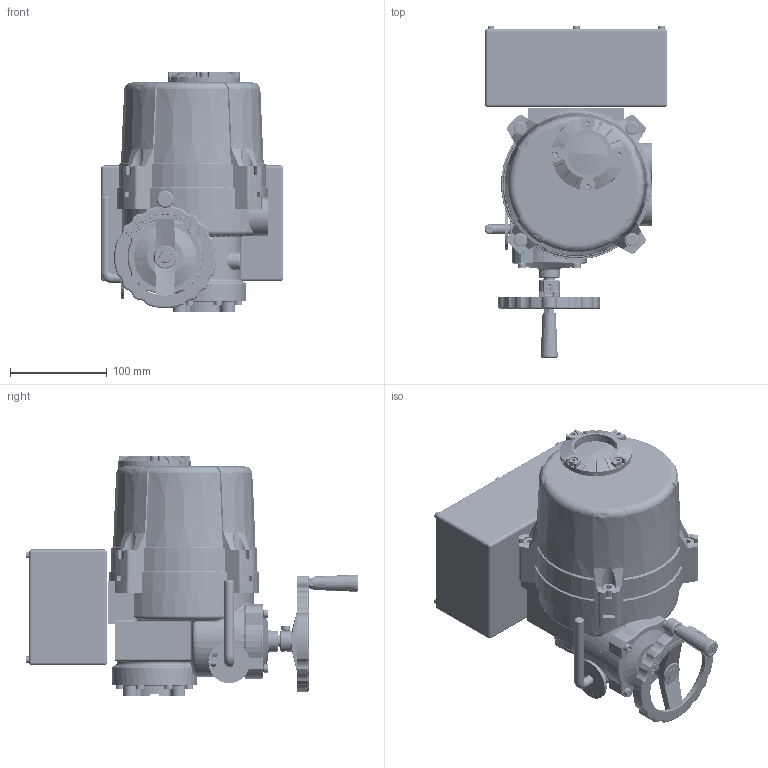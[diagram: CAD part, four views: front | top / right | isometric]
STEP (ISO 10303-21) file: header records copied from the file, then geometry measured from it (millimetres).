
FILE_DESCRIPTION(('Open CASCADE Model'),'2;1');
FILE_NAME('Open CASCADE Shape Model','2023-01-25T15:38:29',('Author'),( 'Open CASCADE'),'Open CASCADE STEP processor 7.3','Open CASCADE 7.3' ,'Unknown');
FILE_SCHEMA(('AUTOMOTIVE_DESIGN { 1 0 10303 214 1 1 1 1 }'));
Length unit declared in the file: millimetre
Products named in the file (41): Open CASCADE STEP translator 7.3 1; Open CASCADE STEP translator 7.3 1.1; Open CASCADE STEP translator 7.3 1.2; Open CASCADE STEP translator 7.3 1.3; Open CASCADE STEP translator 7.3 1.4; Open CASCADE STEP translator 7.3 1.5; Open CASCADE STEP translator 7.3 1.6; Open CASCADE STEP translator 7.3 1.7; Open CASCADE STEP translator 7.3 1.8; Open CASCADE STEP translator 7.3 1.9; Open CASCADE STEP translator 7.3 1.10; Open CASCADE STEP translator 7.3 1.11; Open CASCADE STEP translator 7.3 1.12; Open CASCADE STEP translator 7.3 1.13; Open CASCADE STEP translator 7.3 1.14; Open CASCADE STEP translator 7.3 1.15; Open CASCADE STEP translator 7.3 1.16; Open CASCADE STEP translator 7.3 1.17; Open CASCADE STEP translator 7.3 1.18; Open CASCADE STEP translator 7.3 1.19; Open CASCADE STEP translator 7.3 1.20; Open CASCADE STEP translator 7.3 1.21; Open CASCADE STEP translator 7.3 1.22; Open CASCADE STEP translator 7.3 1.23; Open CASCADE STEP translator 7.3 1.24; Open CASCADE STEP translator 7.3 1.25; Open CASCADE STEP translator 7.3 1.26; Open CASCADE STEP translator 7.3 1.27; Open CASCADE STEP translator 7.3 1.28; Open CASCADE STEP translator 7.3 1.29; Open CASCADE STEP translator 7.3 1.30; Open CASCADE STEP translator 7.3 1.31; Open CASCADE STEP translator 7.3 1.32; Open CASCADE STEP translator 7.3 1.33; Open CASCADE STEP translator 7.3 1.34; Open CASCADE STEP translator 7.3 1.35; Open CASCADE STEP translator 7.3 1.36; Open CASCADE STEP translator 7.3 1.37; Open CASCADE STEP translator 7.3 1.38; Open CASCADE STEP translator 7.3 1.39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
Assembly tree (40 placements, depth 2):
  Open CASCADE STEP translator 7.3 1
    Open CASCADE STEP translator 7.3 1.1
    Open CASCADE STEP translator 7.3 1.2
    Open CASCADE STEP translator 7.3 1.3
    Open CASCADE STEP translator 7.3 1.4
    Open CASCADE STEP translator 7.3 1.5
    Open CASCADE STEP translator 7.3 1.6
    Open CASCADE STEP translator 7.3 1.7
    Open CASCADE STEP translator 7.3 1.8
    Open CASCADE STEP translator 7.3 1.9
    Open CASCADE STEP translator 7.3 1.10
    Open CASCADE STEP translator 7.3 1.11
    Open CASCADE STEP translator 7.3 1.12
    Open CASCADE STEP translator 7.3 1.13
    Open CASCADE STEP translator 7.3 1.14
    Open CASCADE STEP translator 7.3 1.15
    Open CASCADE STEP translator 7.3 1.16
    Open CASCADE STEP translator 7.3 1.17
    Open CASCADE STEP translator 7.3 1.18
    Open CASCADE STEP translator 7.3 1.19
    Open CASCADE STEP translator 7.3 1.20
    Open CASCADE STEP translator 7.3 1.21
    Open CASCADE STEP translator 7.3 1.22
    Open CASCADE STEP translator 7.3 1.23
    Open CASCADE STEP translator 7.3 1.24
    Open CASCADE STEP translator 7.3 1.25
    Open CASCADE STEP translator 7.3 1.26
    Open CASCADE STEP translator 7.3 1.27
    Open CASCADE STEP translator 7.3 1.28
    Open CASCADE STEP translator 7.3 1.29
    Open CASCADE STEP translator 7.3 1.30
    Open CASCADE STEP translator 7.3 1.31
    Open CASCADE STEP translator 7.3 1.32
    Open CASCADE STEP translator 7.3 1.33
    Open CASCADE STEP translator 7.3 1.34
    Open CASCADE STEP translator 7.3 1.35
    Open CASCADE STEP translator 7.3 1.36
    Open CASCADE STEP translator 7.3 1.37
    Open CASCADE STEP translator 7.3 1.38
    Open CASCADE STEP translator 7.3 1.39
    Open CASCADE STEP translator 7.3 1.40
Bounding box: 189.5 x 344 x 249 mm (x, y, z)
Volume: 3210942 mm3; surface area: 521368.2 mm2
Topology: 40 solids, 40 shells, 4651 faces, 10392 edges, 5873 vertices
Faces by surface type: cone 1667, cylinder 1523, plane 864, torus 309, bspline 246, sphere 30, revolution 12
Entity records: 335432 total; most frequent: CARTESIAN_POINT 126821, DIRECTION 39889, LINE 20986, VECTOR 20986, ORIENTED_EDGE 20568, PCURVE 20568, DEFINITIONAL_REPRESENTATION 20568, EDGE_CURVE 10284
